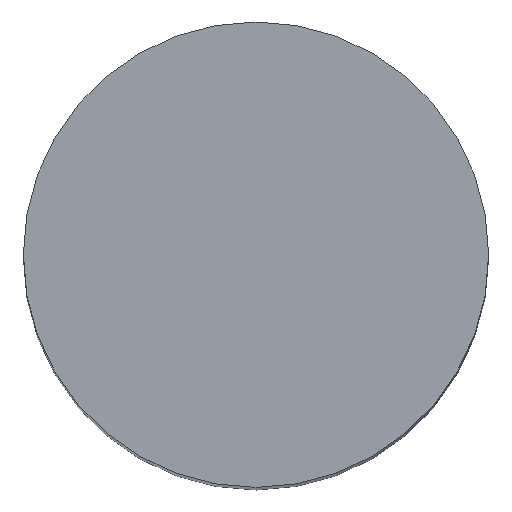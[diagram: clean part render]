
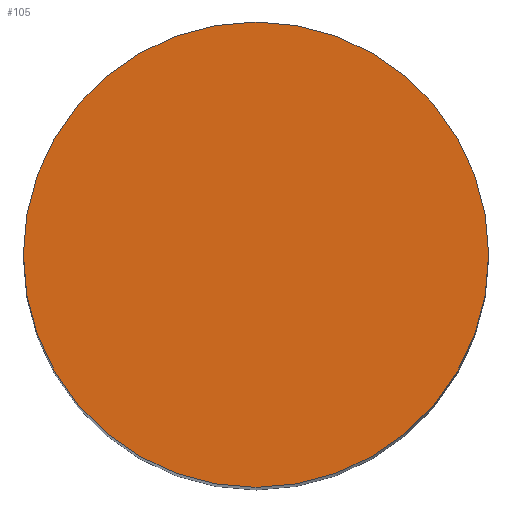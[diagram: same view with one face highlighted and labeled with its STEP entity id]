
A CAD part, top view. The second image highlights one B-rep face of the part: STEP entity #105.
In plain terms, the highlighted planar face has unit normal (0, 0, 1).
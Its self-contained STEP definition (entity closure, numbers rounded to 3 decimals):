
#21 = EDGE_CURVE('',#22,#22,#24,.T.);
#22 = VERTEX_POINT('',#23);
#23 = CARTESIAN_POINT('',(584.,2.5,-33.));
#24 = SURFACE_CURVE('',#25,(#30,#42),.PCURVE_S1.);
#25 = CIRCLE('',#26,2.5);
#26 = AXIS2_PLACEMENT_3D('',#27,#28,#29);
#27 = CARTESIAN_POINT('',(584.,0.,-33.));
#28 = DIRECTION('',(0.,0.,1.));
#29 = DIRECTION('',(0.,1.,0.));
#30 = PCURVE('',#31,#36);
#31 = CYLINDRICAL_SURFACE('',#32,2.5);
#32 = AXIS2_PLACEMENT_3D('',#33,#34,#35);
#33 = CARTESIAN_POINT('',(584.,0.,-49.));
#34 = DIRECTION('',(0.,0.,1.));
#35 = DIRECTION('',(0.,1.,0.));
#36 = DEFINITIONAL_REPRESENTATION('',(#37),#41);
#37 = LINE('',#38,#39);
#38 = CARTESIAN_POINT('',(0.,16.));
#39 = VECTOR('',#40,1.);
#40 = DIRECTION('',(1.,0.));
#41 = ( GEOMETRIC_REPRESENTATION_CONTEXT(2) 
PARAMETRIC_REPRESENTATION_CONTEXT() REPRESENTATION_CONTEXT('2D SPACE',''
  ) );
#42 = PCURVE('',#43,#48);
#43 = PLANE('',#44);
#44 = AXIS2_PLACEMENT_3D('',#45,#46,#47);
#45 = CARTESIAN_POINT('',(584.,0.,-33.));
#46 = DIRECTION('',(0.,0.,1.));
#47 = DIRECTION('',(0.,1.,0.));
#48 = DEFINITIONAL_REPRESENTATION('',(#49),#53);
#49 = CIRCLE('',#50,2.5);
#50 = AXIS2_PLACEMENT_2D('',#51,#52);
#51 = CARTESIAN_POINT('',(0.,0.));
#52 = DIRECTION('',(1.,0.));
#53 = ( GEOMETRIC_REPRESENTATION_CONTEXT(2) 
PARAMETRIC_REPRESENTATION_CONTEXT() REPRESENTATION_CONTEXT('2D SPACE',''
  ) );
#105 = ADVANCED_FACE('',(#106),#43,.T.);
#106 = FACE_BOUND('',#107,.T.);
#107 = EDGE_LOOP('',(#108));
#108 = ORIENTED_EDGE('',*,*,#21,.T.);
